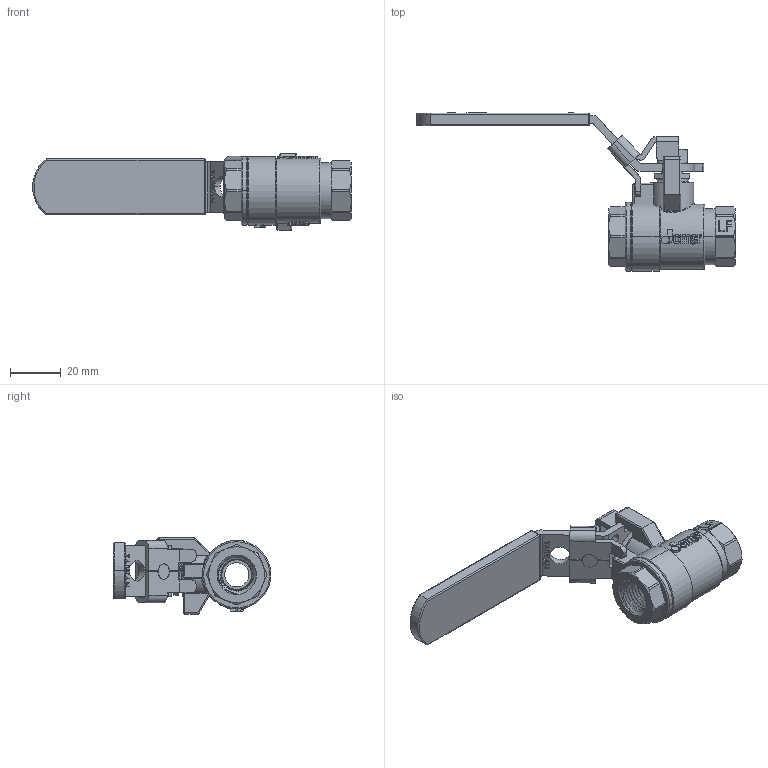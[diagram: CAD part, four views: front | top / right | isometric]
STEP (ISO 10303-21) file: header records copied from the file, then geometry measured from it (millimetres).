
FILE_DESCRIPTION (( 'STEP AP203' ), '1' );
FILE_NAME ('ABL741-有掛鎖-無鉛-0.25''''JOMAR球閥體組合.STEP', '2025-12-15T07:28:03', ( '' ), ( '' ), 'SwSTEP 2.0', 'SolidWorks 2018', '' );
FILE_SCHEMA (( 'CONFIG_CONTROL_DESIGN' ));
Length unit declared in the file: millimetre
Products named in the file (14): DN15-CBL743-LATCH LOCK HANDLE 組合; DN8 & DN15-CBL743-白色膠套-T&G-200CSSG-LH; TBL261A; NBL262; EBL203B; DN15-CBL211э; BBL701-0.25''''JOMAR球閥體-無鉛-端面無插溝; RBL261-無鑽孔; GBL211; EBL203A; BBL701A-0.25''''JOMAR球閥八角頭-無鉛-端面無插溝; DN15-掛鎖; ABL741-有掛鎖-無鉛-0.25''''JOMAR球閥體組合; EBL201
Assembly tree (14 placements, depth 3):
  ABL741-有掛鎖-無鉛-0.25''''JOMAR球閥體組合
    BBL701-0.25''''JOMAR球閥體-無鉛-端面無插溝
    EBL203A
    EBL203B
    GBL211
    RBL261-無鑽孔
    BBL701A-0.25''''JOMAR球閥八角頭-無鉛-端面無插溝
    NBL262
    EBL201  x2
    TBL261A
    DN15-CBL743-LATCH LOCK HANDLE 組合
      DN15-CBL211э
      DN15-掛鎖
    DN8 & DN15-CBL743-白色膠套-T&G-200CSSG-LH
Bounding box: 125.5 x 62.21 x 30 mm (x, y, z)
Volume: 22272.6 mm3; surface area: 32748.3 mm2
Topology: 12 solids, 14 shells, 2341 faces, 6488 edges, 4353 vertices
Faces by surface type: plane 1261, bspline 649, cylinder 273, cone 124, torus 18, sphere 16
Entity records: 123117 total; most frequent: CARTESIAN_POINT 67308, ORIENTED_EDGE 12892, DIRECTION 8430, EDGE_CURVE 6448, VERTEX_POINT 4333, VECTOR 3922, LINE 3922, EDGE_LOOP 2544
